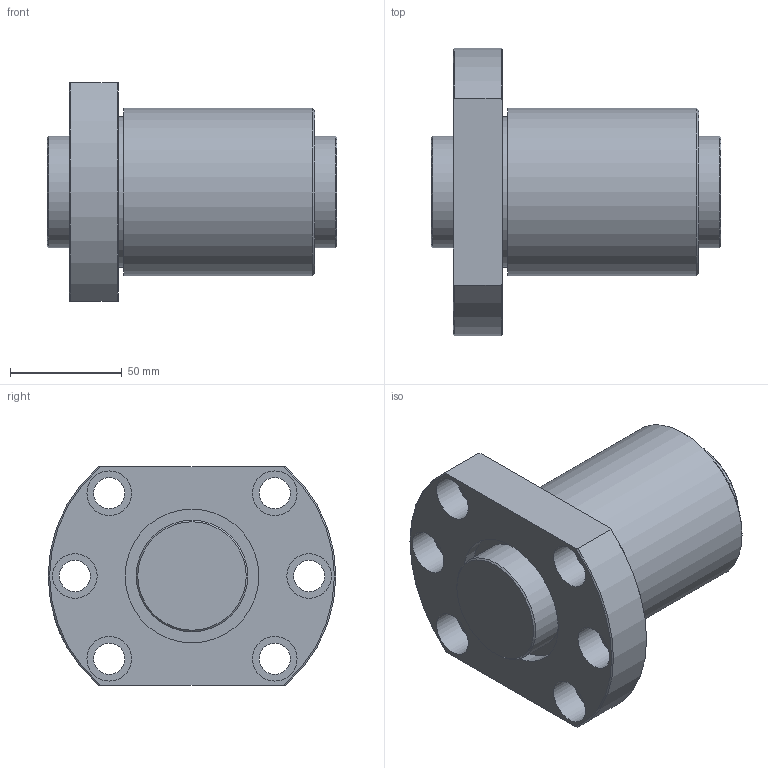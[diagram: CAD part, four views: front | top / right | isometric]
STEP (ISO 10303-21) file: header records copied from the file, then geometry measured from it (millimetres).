
FILE_DESCRIPTION(/* description */ ('STEP AP203'),/* implementation_level */ '2;1');
FILE_NAME(/* name */ 'DK5012-4RRG1+130LC0_000',/* time_stamp */ '2025-01-13T09:21:01+01:00',/* author */ ('License CC BY-ND 4.0'),/* organization */ ('CADENAS'),/* preprocessor_version */ 'ST-DEVELOPER v19.3',/* originating_system */ 'PARTsolutions',/* authorisation */ ' ');
FILE_SCHEMA (('CONFIG_CONTROL_DESIGN'));
Length unit declared in the file: millimetre
Products named in the file (3): DK5012-4RRG1+130LC0_000; DK 5012-4RR013000 Shaft; DK 5012-4RR0Nut
Assembly tree (2 placements, depth 2):
  DK5012-4RRG1+130LC0_000
    DK 5012-4RR013000 Shaft
    DK 5012-4RR0Nut
Bounding box: 130 x 129 x 98 mm (x, y, z)
Volume: 628927.8 mm3; surface area: 97569.1 mm2
Topology: 2 solids, 2 shells, 46 faces, 94 edges, 62 vertices
Faces by surface type: cylinder 21, plane 16, cone 9
Full cylindrical faces by diameter (mm): 8.566 x1, 14 x6, 20 x6, 50 x2, 60 x2, 67.5 x1, 75 x1
Entity records: 1222 total; most frequent: CARTESIAN_POINT 226, DIRECTION 204, ORIENTED_EDGE 134, AXIS2_PLACEMENT_3D 98, EDGE_LOOP 96, FACE_BOUND 96, EDGE_CURVE 67, VERTEX_POINT 59
